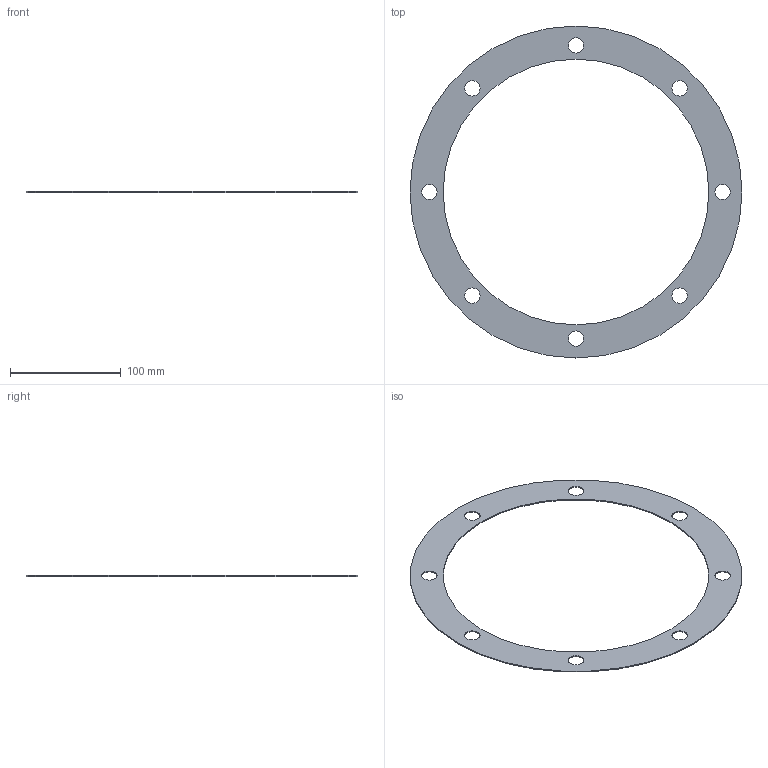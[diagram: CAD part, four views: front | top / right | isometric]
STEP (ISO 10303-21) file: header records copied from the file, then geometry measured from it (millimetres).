
FILE_DESCRIPTION (( 'STEP AP203' ), '1' );
FILE_NAME ('GL300.STEP', '2015-09-11T12:14:55', ( '' ), ( '' ), 'SwSTEP 2.0', 'SolidWorks 2015', '' );
FILE_SCHEMA (( 'CONFIG_CONTROL_DESIGN' ));
Length unit declared in the file: millimetre
Products named in the file (1): GL300
Bounding box: 300 x 300 x 1 mm (x, y, z)
Volume: 24215.4 mm3; surface area: 50479.1 mm2
Topology: 1 solids, 1 shells, 22 faces, 60 edges, 40 vertices
Faces by surface type: cylinder 20, plane 2
Entity records: 837 total; most frequent: DIRECTION 146, CARTESIAN_POINT 123, ORIENTED_EDGE 120, AXIS2_PLACEMENT_3D 63, EDGE_CURVE 60, EDGE_LOOP 40, VERTEX_POINT 40, CIRCLE 40
